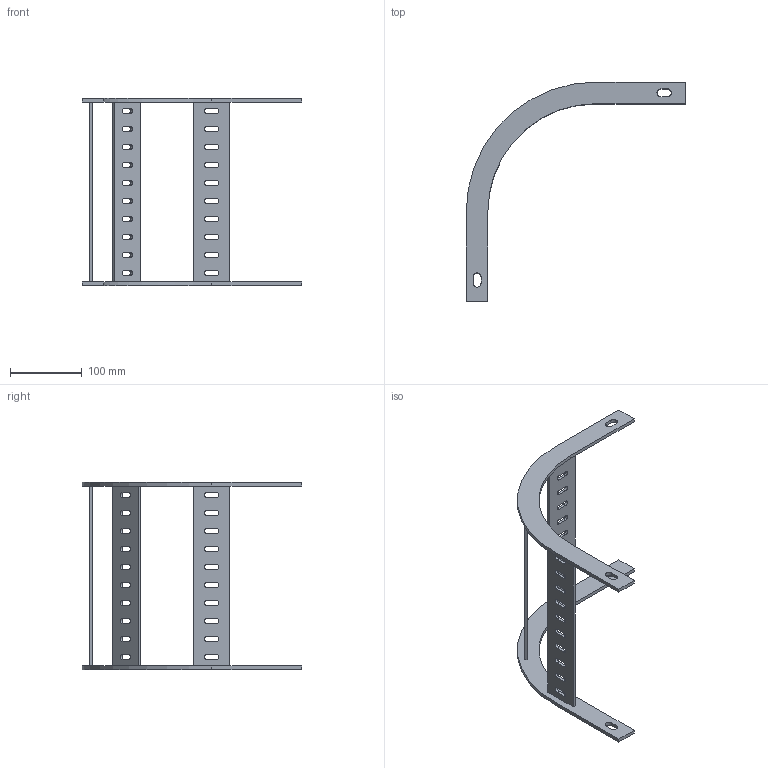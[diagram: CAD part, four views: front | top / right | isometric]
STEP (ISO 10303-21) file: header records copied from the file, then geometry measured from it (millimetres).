
FILE_DESCRIPTION(('Creo Elements/Direct Modeling STEP Export'),'2;1');
FILE_NAME('//pserver/office/EK/ME10-3D/3D-output/SLS 250F.stp','2020-03-10T15:13:01',(''),(''),'PTC Creo Elements/Direct Modeling STEP processor for AP214 (Solid Model)','PTC Creo Elements/Direct Modeling 19.0C 15-Aug-2015 (C) Parametric Technology GmbH','');
FILE_SCHEMA(('AUTOMOTIVE_DESIGN { 1 0 10303 214 1 1 1 1 }'));
Length unit declared in the file: millimetre
Products named in the file (1): SLS_250F
Bounding box: 305 x 305 x 260 mm (x, y, z)
Volume: 283335.6 mm3; surface area: 149174.1 mm2
Topology: 1 solids, 1 shells, 168 faces, 492 edges, 328 vertices
Faces by surface type: plane 96, cylinder 72
Entity records: 5766 total; most frequent: CARTESIAN_POINT 989, ORIENTED_EDGE 984, DIRECTION 974, EDGE_CURVE 492, VECTOR 348, LINE 348, VERTEX_POINT 328, AXIS2_PLACEMENT_3D 313
